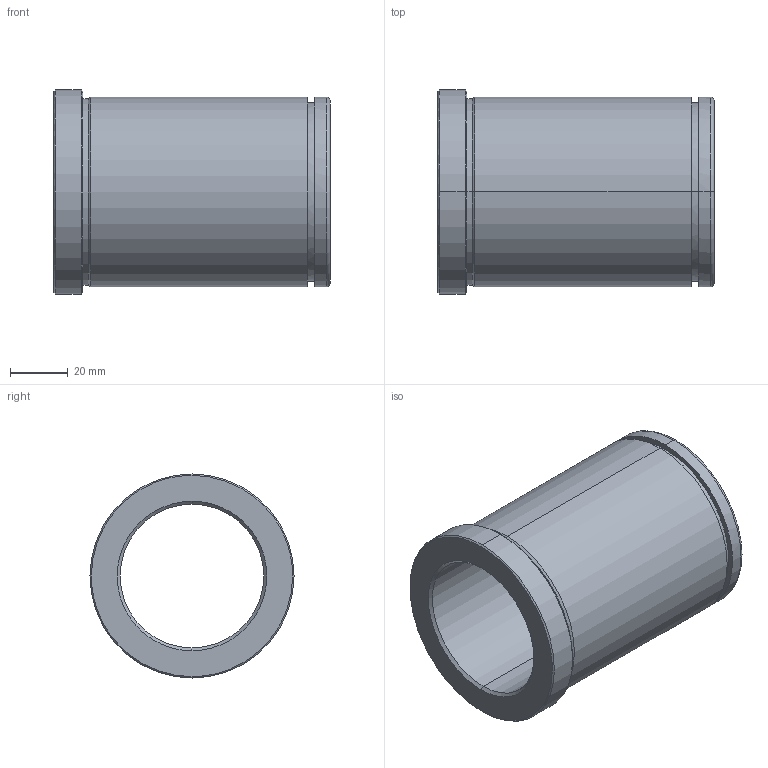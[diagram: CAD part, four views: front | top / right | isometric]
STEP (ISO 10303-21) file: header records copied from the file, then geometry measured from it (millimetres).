
FILE_DESCRIPTION(('CATIA V5 STEP Exchange'),'2;1');
FILE_NAME('C:\Users\Utente\Desktop\IO LAVORO\3D X SITO CF\X SITO\PLASTICA\553\553-50X96.stp','2021-06-08T18:24:24+00:00',('none'),('none'),'CATIA Version 5 Release 20 GA (IN-10)','CATIA V5 STEP AP203','none');
FILE_SCHEMA(('CONFIG_CONTROL_DESIGN'));
Length unit declared in the file: millimetre
Products named in the file (1): 553-50X96
Bounding box: 96 x 71 x 71 mm (x, y, z)
Volume: 143589.1 mm3; surface area: 39531.8 mm2
Topology: 1 solids, 1 shells, 29 faces, 92 edges, 68 vertices
Faces by surface type: cylinder 12, cone 8, plane 5, torus 4
Entity records: 1228 total; most frequent: CARTESIAN_POINT 374, ORIENTED_EDGE 184, DIRECTION 136, EDGE_CURVE 92, AXIS2_PLACEMENT_3D 88, VERTEX_POINT 68, CIRCLE 58, EDGE_LOOP 34
